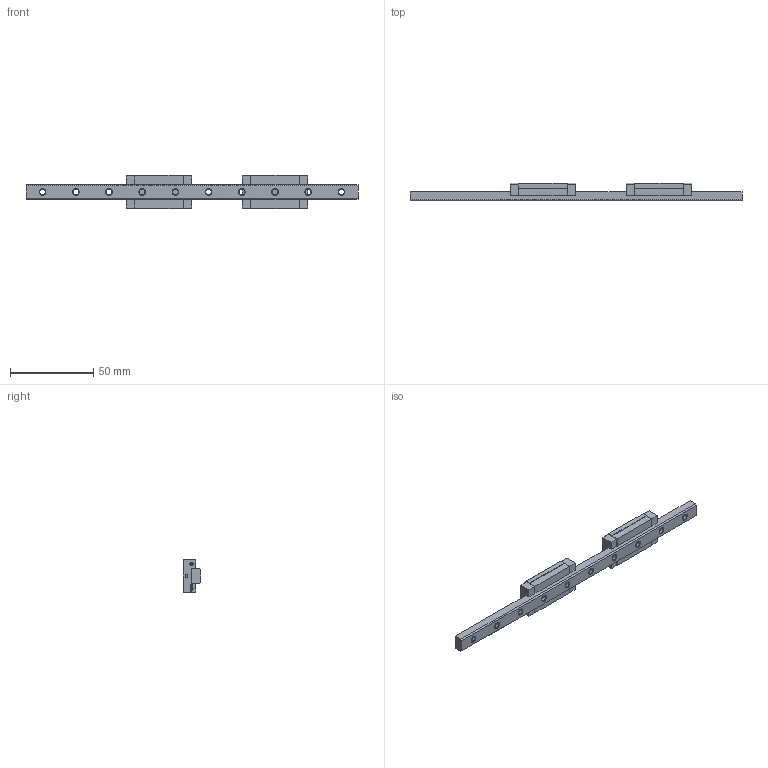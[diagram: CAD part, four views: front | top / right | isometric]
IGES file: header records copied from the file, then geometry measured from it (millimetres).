
Start section: SolidWorks IGES file using analytic representation for surfaces
Global section: file name: H:\直得科技CAD圖檔\3D目錄檔\MR-M Series\9ML.IGS; native system: SolidWorks 2005 by SolidWorks Corporation; preprocessor: SolidWorks 2005 by SolidWorks Corporation; author: cpc; date: 050331.121712; units: millimetre
Bounding box: 200 x 10.8 x 20 mm (x, y, z)
Surface area: 10069.8 mm2 (no closed solid volume)
Topology: 0 solids, 0 shells, 475 faces, 6860 edges, 6836 vertices
Faces by surface type: bspline 323, revolution 152
